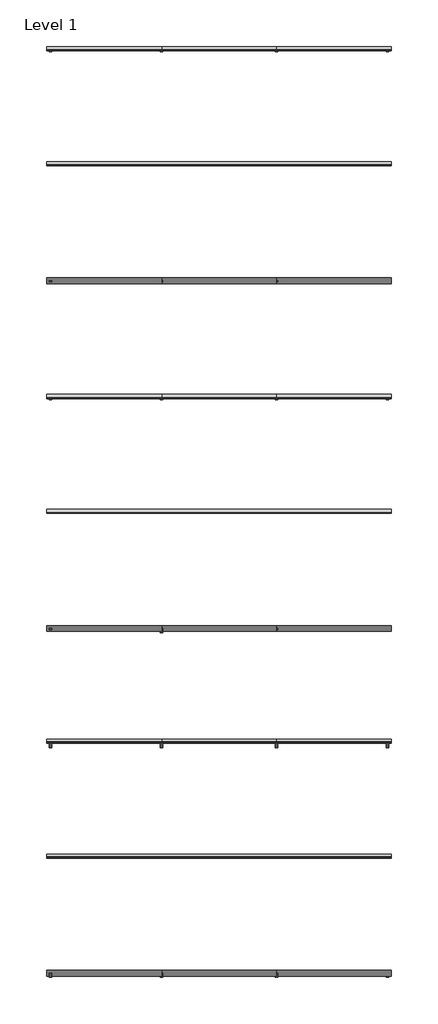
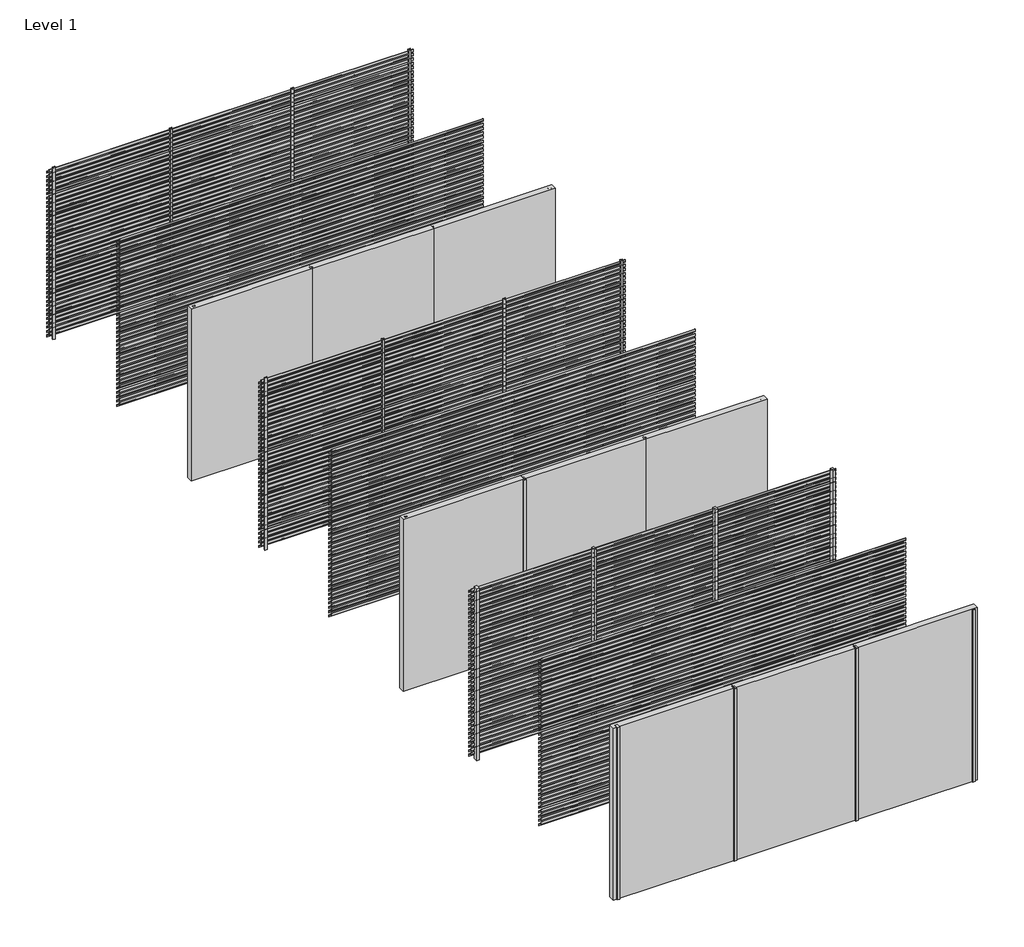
# One storey: 24 members, 21 plates.
"""IFC4 building model written with IfcOpenShell, lengths in millimetres."""

from ifc_helpers import new_model, si_unit, origin, place, context, project, spatial, transform, mapped, element, save
from components import rectangular_mullion_38ebcafd, rectangular_mullion_2b30d03f, rectangular_mullion_a5d3c004, rectangular_mullion_b9a1a312, rectangular_mullion_3da17bfe, rectangular_mullion_3b23135f, empty_system_panel_empty_24b1c33f, screening_70_75_screening_70_75_e231e1b9, screening_70_75_screening_70_75_aa86186d

model = new_model("IFC4")

# Units and contexts
model_context = context("Model", 3, world=origin())
ifc_project = project(units=[si_unit("LENGTHUNIT", "METRE", prefix="MILLI")], contexts=[model_context])

# Site, building, storey
site = spatial("IfcSite", under=ifc_project)
building = spatial("IfcBuilding", under=site)
storey = spatial("IfcBuildingStorey", under=building, Name="Level 1", Elevation=0.0)

# Members
placement = place(None, origin())
rectangular_mullion_shape = rectangular_mullion_38ebcafd(model_context)
element("IfcMember", 1, ObjectType="Rectangular Mullion : RSen_21_CWM_support profile - 40x21 - left_gen_duco projects", at=placement, inside=storey, context=model_context, shape_type="MappedRepresentation", body=[
    mapped(rectangular_mullion_shape, transform((0.0, 0.0, 0.0), x_axis=(-1.0, 0.0, 0.0), y_axis=(0.0, 1.0, 0.0), z_axis=(0.0, 0.0, -1.0))),
])
element("IfcMember", 2, ObjectType="Rectangular Mullion : RSen_21_CWM_support profile - 40x21 - left_gen_duco projects", at=placement, inside=storey, context=model_context, shape_type="MappedRepresentation", body=[
    mapped(rectangular_mullion_shape, transform((0.0, -4000.0, 0.0), x_axis=(-1.0, 0.0, 0.0), y_axis=(0.0, 1.0, 0.0), z_axis=(0.0, 0.0, -1.0))),
])
rectangular_mullion_2_shape = rectangular_mullion_2b30d03f(model_context)
element("IfcMember", 3, ObjectType="Rectangular Mullion : RSen_21_CWM_support profile - 40x21 - right_gen_duco projects", at=placement, inside=storey, context=model_context, shape_type="MappedRepresentation", body=[
    mapped(rectangular_mullion_2_shape, transform((6000.0, 0.0, 3000.0), x_axis=(1.0, 0.0, 0.0), y_axis=(0.0, 1.0, 0.0), z_axis=(0.0, 0.0, 1.0))),
])
element("IfcMember", 4, ObjectType="Rectangular Mullion : RSen_21_CWM_support profile - 40x21 - right_gen_duco projects", at=placement, inside=storey, context=model_context, shape_type="MappedRepresentation", body=[
    mapped(rectangular_mullion_2_shape, transform((6000.0, -4000.0, 3000.0), x_axis=(1.0, 0.0, 0.0), y_axis=(0.0, 1.0, 0.0), z_axis=(0.0, 0.0, 1.0))),
])
rectangular_mullion_3_shape = rectangular_mullion_a5d3c004(model_context)
element("IfcMember", 5, ObjectType="Rectangular Mullion : RSen_21_CWM_support profile - 40x70-double - left_gen_duco projects", at=placement, inside=storey, context=model_context, shape_type="MappedRepresentation", body=[
    mapped(rectangular_mullion_3_shape, transform((0.0, -6000.0, 0.0), x_axis=(-1.0, 0.0, 0.0), y_axis=(0.0, 1.0, 0.0), z_axis=(0.0, 0.0, -1.0))),
])
element("IfcMember", 6, ObjectType="Rectangular Mullion : RSen_21_CWM_support profile - 40x70-double - left_gen_duco projects", at=placement, inside=storey, context=model_context, shape_type="MappedRepresentation", body=[
    mapped(rectangular_mullion_3_shape, transform((0.0, -10000.0, 0.0), x_axis=(-1.0, 0.0, 0.0), y_axis=(0.0, 1.0, 0.0), z_axis=(0.0, 0.0, -1.0))),
])
rectangular_mullion_4_shape = rectangular_mullion_b9a1a312(model_context)
element("IfcMember", 7, ObjectType="Rectangular Mullion : RSen_21_CWM_support profile - 40x70-double - right_gen_duco projects", at=placement, inside=storey, context=model_context, shape_type="MappedRepresentation", body=[
    mapped(rectangular_mullion_4_shape, transform((6000.0, -6000.0, 3000.0), x_axis=(1.0, 0.0, 0.0), y_axis=(0.0, 1.0, 0.0), z_axis=(0.0, 0.0, 1.0))),
])
element("IfcMember", 8, ObjectType="Rectangular Mullion : RSen_21_CWM_support profile - 40x70-double - right_gen_duco projects", at=placement, inside=storey, context=model_context, shape_type="MappedRepresentation", body=[
    mapped(rectangular_mullion_4_shape, transform((6000.0, -10000.0, 3000.0), x_axis=(1.0, 0.0, 0.0), y_axis=(0.0, 1.0, 0.0), z_axis=(0.0, 0.0, 1.0))),
])
rectangular_mullion_5_shape = rectangular_mullion_3da17bfe(model_context)
element("IfcMember", 9, ObjectType="Rectangular Mullion : RSen_21_CWM_support profile - 40x70-double_gen_duco projects", at=placement, inside=storey, context=model_context, shape_type="MappedRepresentation", body=[
    mapped(rectangular_mullion_5_shape, transform((2000.0, -4000.0, 0.0), x_axis=(-1.0, 0.0, 0.0), y_axis=(0.0, 1.0, 0.0), z_axis=(0.0, 0.0, -1.0))),
])
element("IfcMember", 10, ObjectType="Rectangular Mullion : RSen_21_CWM_support profile - 40x70-double_gen_duco projects", at=placement, inside=storey, context=model_context, shape_type="MappedRepresentation", body=[
    mapped(rectangular_mullion_5_shape, transform((4000.0, -6000.0, 0.0), x_axis=(-1.0, 0.0, 0.0), y_axis=(0.0, 1.0, 0.0), z_axis=(0.0, 0.0, -1.0))),
])
element("IfcMember", 11, ObjectType="Rectangular Mullion : RSen_21_CWM_support profile - 40x70-double_gen_duco projects", at=placement, inside=storey, context=model_context, shape_type="MappedRepresentation", body=[
    mapped(rectangular_mullion_5_shape, transform((2000.0, -6000.0, 0.0), x_axis=(-1.0, 0.0, 0.0), y_axis=(0.0, 1.0, 0.0), z_axis=(0.0, 0.0, -1.0))),
])
element("IfcMember", 12, ObjectType="Rectangular Mullion : RSen_21_CWM_support profile - 40x70-double_gen_duco projects", at=placement, inside=storey, context=model_context, shape_type="MappedRepresentation", body=[
    mapped(rectangular_mullion_5_shape, transform((4000.0, -10000.0, 0.0), x_axis=(-1.0, 0.0, 0.0), y_axis=(0.0, 1.0, 0.0), z_axis=(0.0, 0.0, -1.0))),
])
element("IfcMember", 13, ObjectType="Rectangular Mullion : RSen_21_CWM_support profile - 40x70-double_gen_duco projects", at=placement, inside=storey, context=model_context, shape_type="MappedRepresentation", body=[
    mapped(rectangular_mullion_5_shape, transform((2000.0, -10000.0, 0.0), x_axis=(-1.0, 0.0, 0.0), y_axis=(0.0, 1.0, 0.0), z_axis=(0.0, 0.0, -1.0))),
])
rectangular_mullion_6_shape = rectangular_mullion_3b23135f(model_context)
element("IfcMember", 14, ObjectType="Rectangular Mullion : RSen_21_CWM_support profile - 40x21 - gen_duco projects", at=placement, inside=storey, context=model_context, shape_type="MappedRepresentation", body=[
    mapped(rectangular_mullion_6_shape, transform((4000.0, 0.0, 0.0), x_axis=(-1.0, 0.0, 0.0), y_axis=(0.0, 1.0, 0.0), z_axis=(0.0, 0.0, -1.0))),
])
element("IfcMember", 15, ObjectType="Rectangular Mullion : RSen_21_CWM_support profile - 40x21 - gen_duco projects", at=placement, inside=storey, context=model_context, shape_type="MappedRepresentation", body=[
    mapped(rectangular_mullion_6_shape, transform((2000.0, 0.0, 0.0), x_axis=(-1.0, 0.0, 0.0), y_axis=(0.0, 1.0, 0.0), z_axis=(0.0, 0.0, -1.0))),
])
element("IfcMember", 16, ObjectType="Rectangular Mullion : RSen_21_CWM_support profile - 40x21 - gen_duco projects", at=placement, inside=storey, context=model_context, shape_type="MappedRepresentation", body=[
    mapped(rectangular_mullion_6_shape, transform((4000.0, -4000.0, 0.0), x_axis=(-1.0, 0.0, 0.0), y_axis=(0.0, 1.0, 0.0), z_axis=(0.0, 0.0, -1.0))),
])
element("IfcMember", 17, ObjectType="Rectangular Mullion : RSen_21_CWM_support profile - 40x21-double_gen_duco projects", at=placement, inside=storey, context=model_context, shape_type="MappedRepresentation", body=[
    mapped(rectangular_mullion_6_shape, transform((4000.0, 6050.5, 0.0), x_axis=(-1.0, 0.0, 0.0), y_axis=(0.0, 1.0, 0.0), z_axis=(0.0, 0.0, -1.0))),
])
element("IfcMember", 18, ObjectType="Rectangular Mullion : RSen_21_CWM_support profile - 40x21-double_gen_duco projects", at=placement, inside=storey, context=model_context, shape_type="MappedRepresentation", body=[
    mapped(rectangular_mullion_6_shape, transform((2000.0, 6050.5, 0.0), x_axis=(-1.0, 0.0, 0.0), y_axis=(0.0, 1.0, 0.0), z_axis=(0.0, 0.0, -1.0))),
])
element("IfcMember", 19, ObjectType="Rectangular Mullion : RSen_21_CWM_support profile - 40x21-double_gen_duco projects", at=placement, inside=storey, context=model_context, shape_type="MappedRepresentation", body=[
    mapped(rectangular_mullion_6_shape, transform((4000.0, 2050.5, 0.0), x_axis=(-1.0, 0.0, 0.0), y_axis=(0.0, 1.0, 0.0), z_axis=(0.0, 0.0, -1.0))),
])
element("IfcMember", 20, ObjectType="Rectangular Mullion : RSen_21_CWM_support profile - 40x21-double_gen_duco projects", at=placement, inside=storey, context=model_context, shape_type="MappedRepresentation", body=[
    mapped(rectangular_mullion_6_shape, transform((2000.0, 2050.5, 0.0), x_axis=(-1.0, 0.0, 0.0), y_axis=(0.0, 1.0, 0.0), z_axis=(0.0, 0.0, -1.0))),
])
element("IfcMember", 21, ObjectType="Rectangular Mullion : RSen_21_CWM_support profile - 40x21-double - right_gen_duco projects", at=placement, inside=storey, context=model_context, shape_type="MappedRepresentation", body=[
    mapped(rectangular_mullion_2_shape, transform((6000.0, 6050.5, 3000.0), x_axis=(1.0, 0.0, 0.0), y_axis=(0.0, 1.0, 0.0), z_axis=(0.0, 0.0, 1.0))),
])
element("IfcMember", 22, ObjectType="Rectangular Mullion : RSen_21_CWM_support profile - 40x21-double - right_gen_duco projects", at=placement, inside=storey, context=model_context, shape_type="MappedRepresentation", body=[
    mapped(rectangular_mullion_2_shape, transform((6000.0, 2050.5, 3000.0), x_axis=(1.0, 0.0, 0.0), y_axis=(0.0, 1.0, 0.0), z_axis=(0.0, 0.0, 1.0))),
])
element("IfcMember", 23, ObjectType="Rectangular Mullion : RSen_21_CWM_support profile - 40x21-double - left_gen_duco projects", at=placement, inside=storey, context=model_context, shape_type="MappedRepresentation", body=[
    mapped(rectangular_mullion_shape, transform((0.0, 6050.5, 0.0), x_axis=(-1.0, 0.0, 0.0), y_axis=(0.0, 1.0, 0.0), z_axis=(0.0, 0.0, -1.0))),
])
element("IfcMember", 24, ObjectType="Rectangular Mullion : RSen_21_CWM_support profile - 40x21-double - left_gen_duco projects", at=placement, inside=storey, context=model_context, shape_type="MappedRepresentation", body=[
    mapped(rectangular_mullion_shape, transform((0.0, 2050.5, 0.0), x_axis=(-1.0, 0.0, 0.0), y_axis=(0.0, 1.0, 0.0), z_axis=(0.0, 0.0, -1.0))),
])

# Plates
empty_system_panel_empty_shape = empty_system_panel_empty_24b1c33f(model_context)
element("IfcPlate", 25, ObjectType="Empty System Panel : Empty", at=placement, inside=storey, context=model_context, shape_type="MappedRepresentation", body=[
    mapped(empty_system_panel_empty_shape, transform((5000.0, -4000.0, 0.0), x_axis=(-1.0, 0.0, 0.0), y_axis=(0.0, -1.0, 0.0), z_axis=(0.0, 0.0, 1.0))),
])
element("IfcPlate", 26, ObjectType="Empty System Panel : Empty", at=placement, inside=storey, context=model_context, shape_type="MappedRepresentation", body=[
    mapped(empty_system_panel_empty_shape, transform((5000.0, -10000.0, 0.0), x_axis=(-1.0, 0.0, 0.0), y_axis=(0.0, -1.0, 0.0), z_axis=(0.0, 0.0, 1.0))),
])
element("IfcPlate", 27, ObjectType="Empty System Panel : Empty", at=placement, inside=storey, context=model_context, shape_type="MappedRepresentation", body=[
    mapped(empty_system_panel_empty_shape, transform((3000.0, -4000.0, 0.0), x_axis=(-1.0, 0.0, 0.0), y_axis=(0.0, -1.0, 0.0), z_axis=(0.0, 0.0, 1.0))),
])
element("IfcPlate", 28, ObjectType="Empty System Panel : Empty", at=placement, inside=storey, context=model_context, shape_type="MappedRepresentation", body=[
    mapped(empty_system_panel_empty_shape, transform((1000.0, -4000.0, 0.0), x_axis=(-1.0, 0.0, 0.0), y_axis=(0.0, -1.0, 0.0), z_axis=(0.0, 0.0, 1.0))),
])
element("IfcPlate", 29, ObjectType="Empty System Panel : Empty", at=placement, inside=storey, context=model_context, shape_type="MappedRepresentation", body=[
    mapped(empty_system_panel_empty_shape, transform((3000.0, -10000.0, 0.0), x_axis=(-1.0, 0.0, 0.0), y_axis=(0.0, -1.0, 0.0), z_axis=(0.0, 0.0, 1.0))),
])
element("IfcPlate", 30, ObjectType="Empty System Panel : Empty", at=placement, inside=storey, context=model_context, shape_type="MappedRepresentation", body=[
    mapped(empty_system_panel_empty_shape, transform((1000.0, -10000.0, 0.0), x_axis=(-1.0, 0.0, 0.0), y_axis=(0.0, -1.0, 0.0), z_axis=(0.0, 0.0, 1.0))),
])
element("IfcPlate", 31, ObjectType="Empty System Panel : Empty", at=placement, inside=storey, context=model_context, shape_type="MappedRepresentation", body=[
    mapped(empty_system_panel_empty_shape, transform((5000.0, 2050.5, 0.0), x_axis=(-1.0, 0.0, 0.0), y_axis=(0.0, -1.0, 0.0), z_axis=(0.0, 0.0, 1.0))),
])
element("IfcPlate", 32, ObjectType="Empty System Panel : Empty", at=placement, inside=storey, context=model_context, shape_type="MappedRepresentation", body=[
    mapped(empty_system_panel_empty_shape, transform((3000.0, 2050.5, 0.0), x_axis=(-1.0, 0.0, 0.0), y_axis=(0.0, -1.0, 0.0), z_axis=(0.0, 0.0, 1.0))),
])
element("IfcPlate", 33, ObjectType="Empty System Panel : Empty", at=placement, inside=storey, context=model_context, shape_type="MappedRepresentation", body=[
    mapped(empty_system_panel_empty_shape, transform((1000.0, 2050.5, 0.0), x_axis=(-1.0, 0.0, 0.0), y_axis=(0.0, -1.0, 0.0), z_axis=(0.0, 0.0, 1.0))),
])
screening_70_75_screening_70_75_shape = screening_70_75_screening_70_75_e231e1b9(model_context)
element("IfcPlate", 34, ObjectType="Screening 70-75 : Screening 70-75", at=placement, inside=storey, context=model_context, shape_type="MappedRepresentation", body=[
    mapped(screening_70_75_screening_70_75_shape, transform((5000.0, 0.0, 0.0), x_axis=(-1.0, 0.0, 0.0), y_axis=(0.0, -1.0, 0.0), z_axis=(0.0, 0.0, 1.0))),
])
element("IfcPlate", 35, ObjectType="Screening 70-75 : Screening 70-75", at=placement, inside=storey, context=model_context, shape_type="MappedRepresentation", body=[
    mapped(screening_70_75_screening_70_75_shape, transform((5000.0, -6000.0, 0.0), x_axis=(-1.0, 0.0, 0.0), y_axis=(0.0, -1.0, 0.0), z_axis=(0.0, 0.0, 1.0))),
])
element("IfcPlate", 36, ObjectType="Screening 70-75 : Screening 70-75", at=placement, inside=storey, context=model_context, shape_type="MappedRepresentation", body=[
    mapped(screening_70_75_screening_70_75_shape, transform((3000.0, 0.0, 0.0), x_axis=(-1.0, 0.0, 0.0), y_axis=(0.0, -1.0, 0.0), z_axis=(0.0, 0.0, 1.0))),
])
element("IfcPlate", 37, ObjectType="Screening 70-75 : Screening 70-75", at=placement, inside=storey, context=model_context, shape_type="MappedRepresentation", body=[
    mapped(screening_70_75_screening_70_75_shape, transform((1000.0, 0.0, 0.0), x_axis=(-1.0, 0.0, 0.0), y_axis=(0.0, -1.0, 0.0), z_axis=(0.0, 0.0, 1.0))),
])
element("IfcPlate", 38, ObjectType="Screening 70-75 : Screening 70-75", at=placement, inside=storey, context=model_context, shape_type="MappedRepresentation", body=[
    mapped(screening_70_75_screening_70_75_shape, transform((3000.0, -6000.0, 0.0), x_axis=(-1.0, 0.0, 0.0), y_axis=(0.0, -1.0, 0.0), z_axis=(0.0, 0.0, 1.0))),
])
element("IfcPlate", 39, ObjectType="Screening 70-75 : Screening 70-75", at=placement, inside=storey, context=model_context, shape_type="MappedRepresentation", body=[
    mapped(screening_70_75_screening_70_75_shape, transform((1000.0, -6000.0, 0.0), x_axis=(-1.0, 0.0, 0.0), y_axis=(0.0, -1.0, 0.0), z_axis=(0.0, 0.0, 1.0))),
])
element("IfcPlate", 40, ObjectType="Screening 70-75 : Screening 70-75", at=placement, inside=storey, context=model_context, shape_type="MappedRepresentation", body=[
    mapped(screening_70_75_screening_70_75_shape, transform((5000.0, 6050.5, 0.0), x_axis=(-1.0, 0.0, 0.0), y_axis=(0.0, -1.0, 0.0), z_axis=(0.0, 0.0, 1.0))),
])
element("IfcPlate", 41, ObjectType="Screening 70-75 : Screening 70-75", at=placement, inside=storey, context=model_context, shape_type="MappedRepresentation", body=[
    mapped(screening_70_75_screening_70_75_shape, transform((3000.0, 6050.5, 0.0), x_axis=(-1.0, 0.0, 0.0), y_axis=(0.0, -1.0, 0.0), z_axis=(0.0, 0.0, 1.0))),
])
element("IfcPlate", 42, ObjectType="Screening 70-75 : Screening 70-75", at=placement, inside=storey, context=model_context, shape_type="MappedRepresentation", body=[
    mapped(screening_70_75_screening_70_75_shape, transform((1000.0, 6050.5, 0.0), x_axis=(-1.0, 0.0, 0.0), y_axis=(0.0, -1.0, 0.0), z_axis=(0.0, 0.0, 1.0))),
])
screening_70_75_screening_70_75_2_shape = screening_70_75_screening_70_75_aa86186d(model_context)
element("IfcPlate", 43, ObjectType="Screening 70-75 : Screening 70-75", at=placement, inside=storey, context=model_context, shape_type="MappedRepresentation", body=[
    mapped(screening_70_75_screening_70_75_2_shape, transform((3000.0, -2000.0, 0.0), x_axis=(-1.0, 0.0, 0.0), y_axis=(0.0, -1.0, 0.0), z_axis=(0.0, 0.0, 1.0))),
])
element("IfcPlate", 44, ObjectType="Screening 70-75 : Screening 70-75", at=placement, inside=storey, context=model_context, shape_type="MappedRepresentation", body=[
    mapped(screening_70_75_screening_70_75_2_shape, transform((3000.0, -8000.0, 0.0), x_axis=(-1.0, 0.0, 0.0), y_axis=(0.0, -1.0, 0.0), z_axis=(0.0, 0.0, 1.0))),
])
element("IfcPlate", 45, ObjectType="Screening 70-75 : Screening 70-75", at=placement, inside=storey, context=model_context, shape_type="MappedRepresentation", body=[
    mapped(screening_70_75_screening_70_75_2_shape, transform((3000.0, 4050.5, 0.0), x_axis=(-1.0, 0.0, 0.0), y_axis=(0.0, -1.0, 0.0), z_axis=(0.0, 0.0, 1.0))),
])

save(model, "model.ifc")
